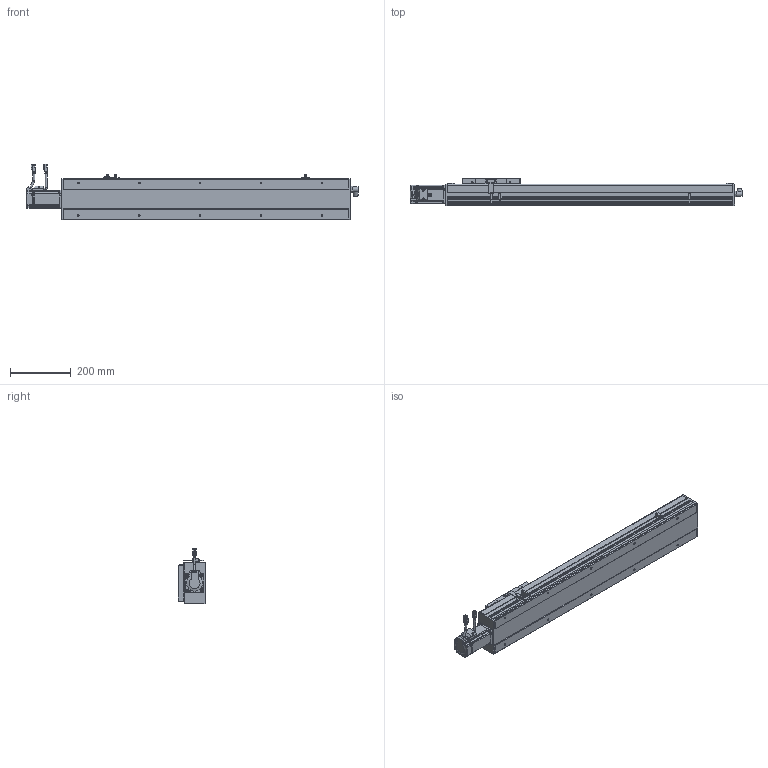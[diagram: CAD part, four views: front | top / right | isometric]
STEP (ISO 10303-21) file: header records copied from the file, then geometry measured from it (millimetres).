
FILE_DESCRIPTION(/* description */ ('STEP AP214'),/* implementation_level */ '2;1');
FILE_NAME(/* name */ 'PSC140-L05-S650-BC-P40-C1-N(0)',/* time_stamp */ '2022-06-13T03:14:49+02:00',/* author */ ('License CC BY-ND 4.0'),/* organization */ ('CADENAS'),/* preprocessor_version */ 'ST-DEVELOPER v18.102',/* originating_system */ 'PARTsolutions',/* authorisation */ ' ');
FILE_SCHEMA (('AUTOMOTIVE_DESIGN {1 0 10303 214 3 1 1}'));
Length unit declared in the file: millimetre
Products named in the file (10): PSC140-L05-S650-BC-P40-C1-N(0); P40-s2; P40-c2; P40-s1; P40-c1; P40-p1; PSC140-sensor; PSC140-BC-SLIDER; PSC140-S650-BC-P40-C1_BODY1; PSC140-L05-S650-BC-P40-C1-N(0)_dummy
Assembly tree (11 placements, depth 2):
  PSC140-L05-S650-BC-P40-C1-N(0)
    P40-s2
    P40-c2
    P40-s1
    P40-c1
    P40-p1
    PSC140-sensor  x3
    PSC140-BC-SLIDER
    PSC140-S650-BC-P40-C1_BODY1
    PSC140-L05-S650-BC-P40-C1-N(0)_dummy
Bounding box: 1089 x 91 x 182.48 mm (x, y, z)
Volume: 9720935.3 mm3; surface area: 582538.2 mm2
Topology: 10 solids, 10 shells, 1244 faces, 3210 edges, 2121 vertices
Faces by surface type: plane 864, cylinder 315, cone 46, torus 19
Full cylindrical faces by diameter (mm): 1 x8, 2.6 x10, 2.8 x3, 3.3 x8, 4.5 x12, 4.6 x3, 4.917 x14, 5 x4, 5.5 x8, 6 x10, 6.08 x4, 7 x10, 9 x2, 10 x1, 11 x1, 13.74 x1, 14 x1, 16.4 x2, 16.5 x1, 19.98 x1, 31.98 x1, 35.5 x1, 50 x2
Entity records: 34358 total; most frequent: CARTESIAN_POINT 6001, DIRECTION 5779, ORIENTED_EDGE 5570, EDGE_CURVE 2785, LINE 2109, VECTOR 2109, VERTEX_POINT 1942, AXIS2_PLACEMENT_3D 1835
